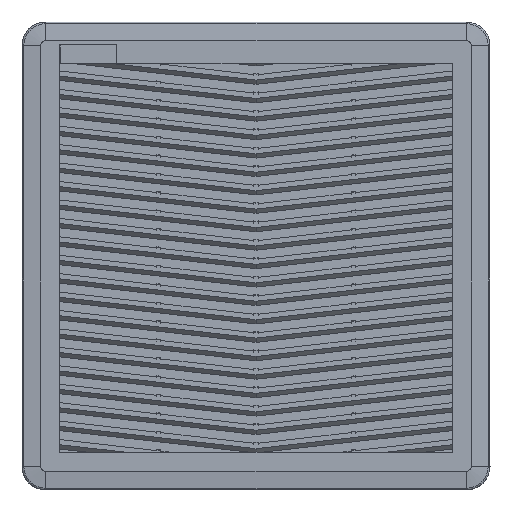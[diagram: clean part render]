
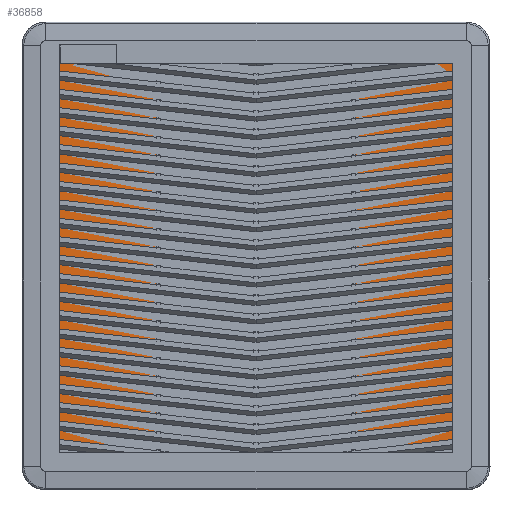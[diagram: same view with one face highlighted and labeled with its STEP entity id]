
A CAD part, top view. The second image highlights one B-rep face of the part: STEP entity #36858.
In plain terms, the highlighted planar face has unit normal (0, 0, 1).
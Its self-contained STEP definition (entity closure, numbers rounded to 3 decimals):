
#50 = DIRECTION ( 'NONE',  ( 0., 0., -1. ) ) ;
#355 = CARTESIAN_POINT ( 'NONE',  ( 112.04, -122.54, 6.009 ) ) ;
#656 = AXIS2_PLACEMENT_3D ( 'NONE', #39142, #28924, #16919 ) ;
#749 = CIRCLE ( 'NONE', #26856, 10.5 ) ;
#1324 = CARTESIAN_POINT ( 'NONE',  ( -122.46, -112.04, 6.009 ) ) ;
#1411 = VECTOR ( 'NONE', #35941, 1000. ) ;
#2079 = ORIENTED_EDGE ( 'NONE', *, *, #36458, .F. ) ;
#2433 = CIRCLE ( 'NONE', #31900, 10.5 ) ;
#2623 = VERTEX_POINT ( 'NONE', #24793 ) ;
#2711 = CARTESIAN_POINT ( 'NONE',  ( 112.04, 114.46, 6.009 ) ) ;
#3110 = DIRECTION ( 'NONE',  ( 1., 0., 0. ) ) ;
#3473 = DIRECTION ( 'NONE',  ( 0., 1., 0. ) ) ;
#3596 = CARTESIAN_POINT ( 'NONE',  ( -111.96, 114.46, 6.009 ) ) ;
#3967 = AXIS2_PLACEMENT_3D ( 'NONE', #15579, #50, #21858 ) ;
#4342 = EDGE_LOOP ( 'NONE', ( #28770, #27018, #13779, #19418, #17562, #2079, #9763, #32834 ) ) ;
#7067 = PLANE ( 'NONE',  #656 ) ;
#7328 = CIRCLE ( 'NONE', #3967, 10.5 ) ;
#7940 = DIRECTION ( 'NONE',  ( 0., 0., -1. ) ) ;
#8092 = EDGE_CURVE ( 'NONE', #26859, #19139, #31760, .T. ) ;
#8789 = VECTOR ( 'NONE', #3473, 1000. ) ;
#9507 = CARTESIAN_POINT ( 'NONE',  ( 122.54, -112.04, 6.009 ) ) ;
#9763 = ORIENTED_EDGE ( 'NONE', *, *, #38026, .F. ) ;
#9814 = DIRECTION ( 'NONE',  ( 0., 0., -1. ) ) ;
#9864 = VERTEX_POINT ( 'NONE', #15083 ) ;
#11311 = DIRECTION ( 'NONE',  ( 0., 0., -1. ) ) ;
#12825 = VERTEX_POINT ( 'NONE', #32190 ) ;
#12855 = LINE ( 'NONE', #9507, #22741 ) ;
#13044 = EDGE_CURVE ( 'NONE', #2623, #17786, #7328, .T. ) ;
#13261 = DIRECTION ( 'NONE',  ( 0., -1., 0. ) ) ;
#13674 = AXIS2_PLACEMENT_3D ( 'NONE', #3596, #7940, #28800 ) ;
#13704 = CARTESIAN_POINT ( 'NONE',  ( -111.96, 124.96, 6.009 ) ) ;
#13779 = ORIENTED_EDGE ( 'NONE', *, *, #15030, .F. ) ;
#14460 = DIRECTION ( 'NONE',  ( 1., 0., 0. ) ) ;
#15030 = EDGE_CURVE ( 'NONE', #16641, #9864, #2433, .T. ) ;
#15083 = CARTESIAN_POINT ( 'NONE',  ( -122.46, -112.04, 6.009 ) ) ;
#15579 = CARTESIAN_POINT ( 'NONE',  ( 112.04, -112.04, 6.009 ) ) ;
#16439 = LINE ( 'NONE', #29257, #1411 ) ;
#16641 = VERTEX_POINT ( 'NONE', #22771 ) ;
#16919 = DIRECTION ( 'NONE',  ( 1., 0., 0. ) ) ;
#17262 = VECTOR ( 'NONE', #22373, 1000. ) ;
#17562 = ORIENTED_EDGE ( 'NONE', *, *, #13044, .F. ) ;
#17786 = VERTEX_POINT ( 'NONE', #20128 ) ;
#17858 = CARTESIAN_POINT ( 'NONE',  ( 122.54, 114.46, 6.009 ) ) ;
#19139 = VERTEX_POINT ( 'NONE', #13704 ) ;
#19418 = ORIENTED_EDGE ( 'NONE', *, *, #20026, .F. ) ;
#20026 = EDGE_CURVE ( 'NONE', #17786, #16641, #28909, .T. ) ;
#20128 = CARTESIAN_POINT ( 'NONE',  ( 112.04, -122.54, 6.009 ) ) ;
#21858 = DIRECTION ( 'NONE',  ( 1., 0., 0. ) ) ;
#22373 = DIRECTION ( 'NONE',  ( -1., 0., 0. ) ) ;
#22741 = VECTOR ( 'NONE', #13261, 1000. ) ;
#22764 = VERTEX_POINT ( 'NONE', #17858 ) ;
#22771 = CARTESIAN_POINT ( 'NONE',  ( -111.96, -122.54, 6.009 ) ) ;
#22988 = FACE_OUTER_BOUND ( 'NONE', #4342, .T. ) ;
#24793 = CARTESIAN_POINT ( 'NONE',  ( 122.54, -112.04, 6.009 ) ) ;
#26856 = AXIS2_PLACEMENT_3D ( 'NONE', #2711, #9814, #3110 ) ;
#26859 = VERTEX_POINT ( 'NONE', #32800 ) ;
#27018 = ORIENTED_EDGE ( 'NONE', *, *, #38433, .F. ) ;
#28770 = ORIENTED_EDGE ( 'NONE', *, *, #8092, .F. ) ;
#28800 = DIRECTION ( 'NONE',  ( 1., 0., 0. ) ) ;
#28909 = LINE ( 'NONE', #355, #17262 ) ;
#28924 = DIRECTION ( 'NONE',  ( 0., 0., 1. ) ) ;
#29257 = CARTESIAN_POINT ( 'NONE',  ( -111.96, 124.96, 6.009 ) ) ;
#30473 = LINE ( 'NONE', #1324, #8789 ) ;
#31760 = CIRCLE ( 'NONE', #13674, 10.5 ) ;
#31900 = AXIS2_PLACEMENT_3D ( 'NONE', #40449, #11311, #14460 ) ;
#32190 = CARTESIAN_POINT ( 'NONE',  ( 112.04, 124.96, 6.009 ) ) ;
#32800 = CARTESIAN_POINT ( 'NONE',  ( -122.46, 114.46, 6.009 ) ) ;
#32834 = ORIENTED_EDGE ( 'NONE', *, *, #36026, .F. ) ;
#35941 = DIRECTION ( 'NONE',  ( 1., 0., 0. ) ) ;
#36026 = EDGE_CURVE ( 'NONE', #19139, #12825, #16439, .T. ) ;
#36458 = EDGE_CURVE ( 'NONE', #22764, #2623, #12855, .T. ) ;
#36858 = ADVANCED_FACE ( 'NONE', ( #22988 ), #7067, .T. ) ;
#38026 = EDGE_CURVE ( 'NONE', #12825, #22764, #749, .T. ) ;
#38433 = EDGE_CURVE ( 'NONE', #9864, #26859, #30473, .T. ) ;
#39142 = CARTESIAN_POINT ( 'NONE',  ( 0.04, -0.04, 6.009 ) ) ;
#40449 = CARTESIAN_POINT ( 'NONE',  ( -111.96, -112.04, 6.009 ) ) ;
